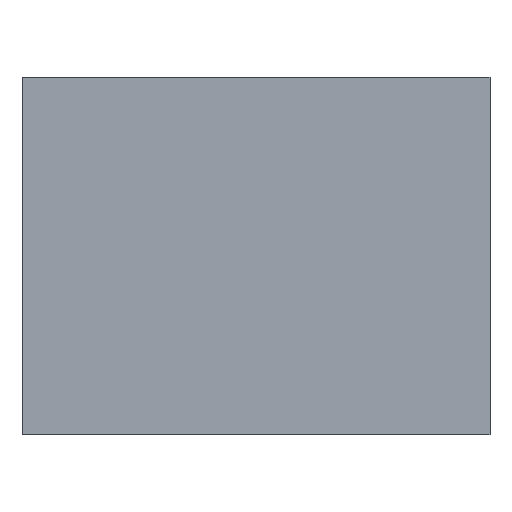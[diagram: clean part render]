
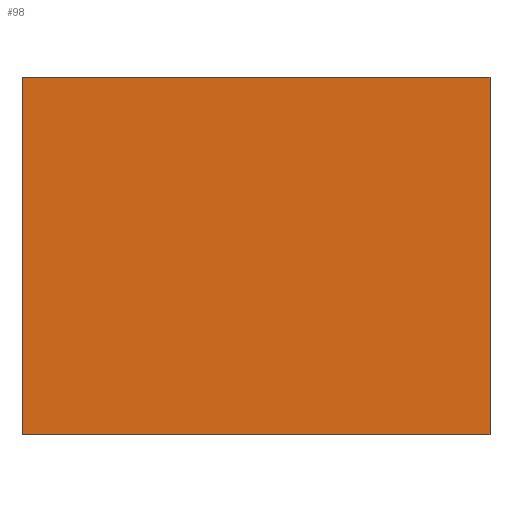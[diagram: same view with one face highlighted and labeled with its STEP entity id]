
A CAD part, top view. The second image highlights one B-rep face of the part: STEP entity #98.
In plain terms, the highlighted planar face has unit normal (0, 0, 1).
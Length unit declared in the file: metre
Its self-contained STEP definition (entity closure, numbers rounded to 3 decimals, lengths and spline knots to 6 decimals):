
#12=ORIENTED_EDGE('',*,*,#36,.F.);
#13=ORIENTED_EDGE('',*,*,#37,.F.);
#14=ORIENTED_EDGE('',*,*,#38,.F.);
#15=ORIENTED_EDGE('',*,*,#39,.F.);
#36=EDGE_CURVE('',#48,#49,#56,.T.);
#37=EDGE_CURVE('',#50,#48,#57,.T.);
#38=EDGE_CURVE('',#51,#50,#58,.T.);
#39=EDGE_CURVE('',#49,#51,#59,.T.);
#48=VERTEX_POINT('',#152);
#49=VERTEX_POINT('',#153);
#50=VERTEX_POINT('',#155);
#51=VERTEX_POINT('',#157);
#56=LINE('',#151,#68);
#57=LINE('',#154,#69);
#58=LINE('',#156,#70);
#59=LINE('',#158,#71);
#68=VECTOR('',#127,1.);
#69=VECTOR('',#128,1.);
#70=VECTOR('',#129,1.);
#71=VECTOR('',#130,1.);
#80=EDGE_LOOP('',(#12,#13,#14,#15));
#86=FACE_BOUND('',#80,.T.);
#92=PLANE('',#117);
#98=ADVANCED_FACE('',(#86),#92,.F.);
#117=AXIS2_PLACEMENT_3D('',#150,#125,#126);
#125=DIRECTION('',(0.,0.,-1.));
#126=DIRECTION('',(-1.,0.,0.));
#127=DIRECTION('',(0.,1.,0.));
#128=DIRECTION('',(-1.,0.,0.));
#129=DIRECTION('',(0.,-1.,0.));
#130=DIRECTION('',(1.,0.,0.));
#150=CARTESIAN_POINT('',(0.,0.,-0.0061));
#151=CARTESIAN_POINT('',(-0.0085,0.00615,-0.0061));
#152=CARTESIAN_POINT('',(-0.0085,-0.00685,-0.0061));
#153=CARTESIAN_POINT('',(-0.0085,0.00615,-0.0061));
#154=CARTESIAN_POINT('',(0.0085,-0.00685,-0.0061));
#155=CARTESIAN_POINT('',(0.0085,-0.00685,-0.0061));
#156=CARTESIAN_POINT('',(0.0085,0.00615,-0.0061));
#157=CARTESIAN_POINT('',(0.0085,0.00615,-0.0061));
#158=CARTESIAN_POINT('',(0.0085,0.00615,-0.0061));
